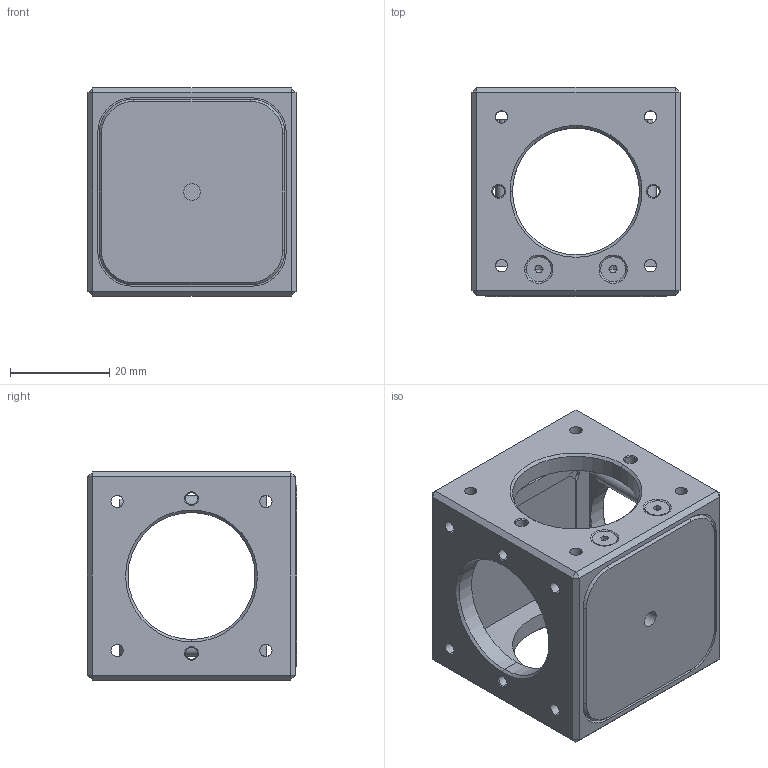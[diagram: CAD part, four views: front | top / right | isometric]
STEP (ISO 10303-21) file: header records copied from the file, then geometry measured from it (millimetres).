
FILE_DESCRIPTION (( 'STEP AP203' ), '1' );
FILE_NAME ('CSC1-3.STEP', '2024-03-28T03:19:26', ( '' ), ( '' ), 'SwSTEP 2.0', 'SolidWorks 2021', '' );
FILE_SCHEMA (( 'CONFIG_CONTROL_DESIGN' ));
Length unit declared in the file: millimetre
Products named in the file (1): CSC1-3
Bounding box: 42 x 42.2 x 42 mm (x, y, z)
Surface area: 17186.6 mm2 (no closed solid volume)
Topology: 0 solids, 15 shells, 251 faces, 839 edges, 556 vertices
Faces by surface type: plane 112, cylinder 95, cone 44
Entity records: 9566 total; most frequent: CARTESIAN_POINT 2167, DIRECTION 1599, ORIENTED_EDGE 1358, EDGE_CURVE 831, AXIS2_PLACEMENT_3D 564, VERTEX_POINT 556, VECTOR 471, LINE 471
